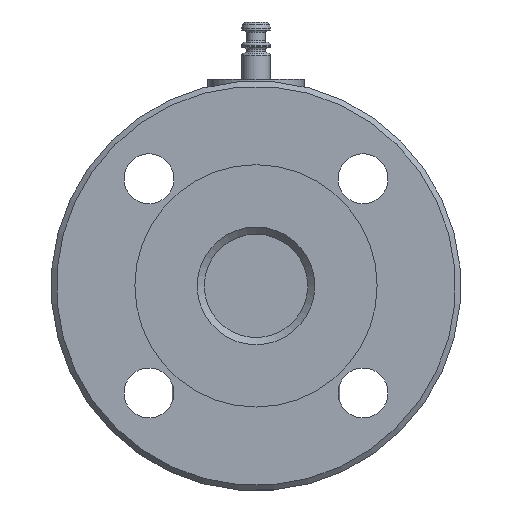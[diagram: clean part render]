
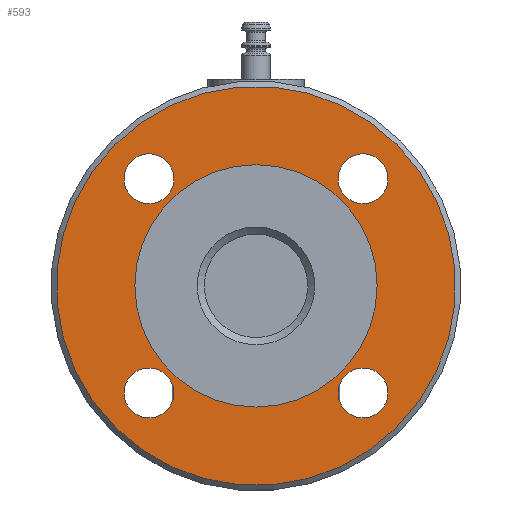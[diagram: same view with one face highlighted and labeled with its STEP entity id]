
A CAD part, left-side view. The second image highlights one B-rep face of the part: STEP entity #593.
In plain terms, the highlighted planar face has unit normal (-1, 0, 0).
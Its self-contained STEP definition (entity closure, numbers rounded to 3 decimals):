
#225=FACE_BOUND('',#956,.T.);
#226=FACE_BOUND('',#957,.T.);
#227=FACE_BOUND('',#958,.T.);
#228=FACE_BOUND('',#959,.T.);
#229=FACE_BOUND('',#960,.T.);
#230=FACE_BOUND('',#961,.T.);
#522=PLANE('',#2808);
#593=ADVANCED_FACE('',(#225,#226,#227,#228,#229,#230),#522,.T.);
#956=EDGE_LOOP('',(#1496));
#957=EDGE_LOOP('',(#1497));
#958=EDGE_LOOP('',(#1498));
#959=EDGE_LOOP('',(#1499));
#960=EDGE_LOOP('',(#1500));
#961=EDGE_LOOP('',(#1501));
#1240=CIRCLE('',#2762,34.);
#1261=CIRCLE('',#2803,56.);
#1262=CIRCLE('',#2804,7.);
#1263=CIRCLE('',#2805,7.);
#1264=CIRCLE('',#2806,7.);
#1265=CIRCLE('',#2807,7.);
#1496=ORIENTED_EDGE('',*,*,#2356,.T.);
#1497=ORIENTED_EDGE('',*,*,#2325,.T.);
#1498=ORIENTED_EDGE('',*,*,#2357,.T.);
#1499=ORIENTED_EDGE('',*,*,#2358,.T.);
#1500=ORIENTED_EDGE('',*,*,#2359,.T.);
#1501=ORIENTED_EDGE('',*,*,#2360,.T.);
#2080=VERTEX_POINT('',#3942);
#2100=VERTEX_POINT('',#4063);
#2101=VERTEX_POINT('',#4065);
#2102=VERTEX_POINT('',#4067);
#2103=VERTEX_POINT('',#4069);
#2104=VERTEX_POINT('',#4071);
#2325=EDGE_CURVE('',#2080,#2080,#1240,.T.);
#2356=EDGE_CURVE('',#2100,#2100,#1261,.T.);
#2357=EDGE_CURVE('',#2101,#2101,#1262,.T.);
#2358=EDGE_CURVE('',#2102,#2102,#1263,.T.);
#2359=EDGE_CURVE('',#2103,#2103,#1264,.T.);
#2360=EDGE_CURVE('',#2104,#2104,#1265,.T.);
#2762=AXIS2_PLACEMENT_3D('',#3941,#3139,#3140);
#2803=AXIS2_PLACEMENT_3D('',#4062,#3225,#3226);
#2804=AXIS2_PLACEMENT_3D('',#4064,#3227,#3228);
#2805=AXIS2_PLACEMENT_3D('',#4066,#3229,#3230);
#2806=AXIS2_PLACEMENT_3D('',#4068,#3231,#3232);
#2807=AXIS2_PLACEMENT_3D('',#4070,#3233,#3234);
#2808=AXIS2_PLACEMENT_3D('',#4072,#3235,#3236);
#3139=DIRECTION('',(1.,0.,0.));
#3140=DIRECTION('',(0.,0.,1.));
#3225=DIRECTION('',(-1.,0.,0.));
#3226=DIRECTION('',(0.,0.707,0.707));
#3227=DIRECTION('',(1.,0.,0.));
#3228=DIRECTION('',(0.,-0.707,0.707));
#3229=DIRECTION('',(1.,0.,0.));
#3230=DIRECTION('',(0.,0.707,0.707));
#3231=DIRECTION('',(1.,0.,0.));
#3232=DIRECTION('',(0.,0.707,-0.707));
#3233=DIRECTION('',(1.,0.,0.));
#3234=DIRECTION('',(0.,-0.707,-0.707));
#3235=DIRECTION('',(-1.,0.,0.));
#3236=DIRECTION('',(0.,0.707,0.707));
#3941=CARTESIAN_POINT('',(22.,0.,100.));
#3942=CARTESIAN_POINT('',(22.,0.,134.));
#4062=CARTESIAN_POINT('',(22.,0.,100.));
#4063=CARTESIAN_POINT('',(22.,39.598,139.598));
#4064=CARTESIAN_POINT('',(22.,30.052,130.052));
#4065=CARTESIAN_POINT('',(22.,25.102,135.002));
#4066=CARTESIAN_POINT('',(22.,30.052,69.948));
#4067=CARTESIAN_POINT('',(22.,35.002,74.898));
#4068=CARTESIAN_POINT('',(22.,-30.052,69.948));
#4069=CARTESIAN_POINT('',(22.,-25.102,64.998));
#4070=CARTESIAN_POINT('',(22.,-30.052,130.052));
#4071=CARTESIAN_POINT('',(22.,-35.002,125.102));
#4072=CARTESIAN_POINT('',(22.,0.,100.));
